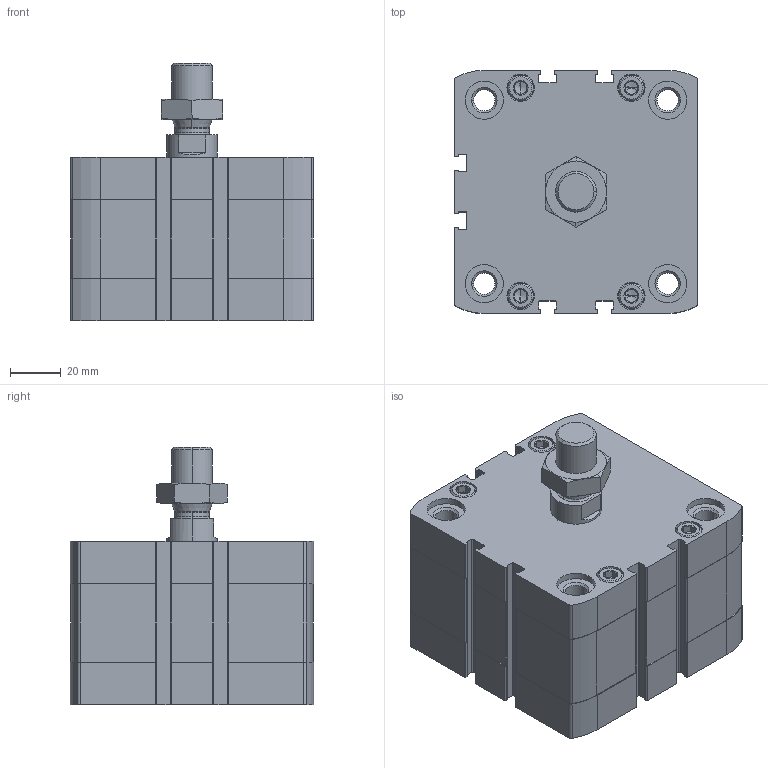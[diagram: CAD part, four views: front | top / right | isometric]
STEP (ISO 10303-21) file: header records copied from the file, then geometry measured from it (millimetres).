
FILE_DESCRIPTION (( 'STEP AP203' ), '1' );
FILE_NAME ('CCN80-10M.STEP', '2017-04-05T20:07:20', ( '' ), ( '' ), 'SwSTEP 2.0', 'SolidWorks 2016', '' );
FILE_SCHEMA (( 'CONFIG_CONTROL_DESIGN' ));
Length unit declared in the file: millimetre
Products named in the file (4): CCN-10---(Z); CCN-10_(KS); _DIN-439-B - M16x1.5(F); CCN80-10M
Assembly tree (3 placements, depth 2):
  CCN80-10M
    CCN-10---(Z)
    CCN-10_(KS)
    _DIN-439-B - M16x1.5(F)
Bounding box: 95.5 x 95.5 x 100.9 mm (x, y, z)
Volume: 508390.6 mm3; surface area: 95798.3 mm2
Topology: 3 solids, 3 shells, 507 faces, 1294 edges, 824 vertices
Faces by surface type: plane 235, cylinder 188, cone 80, bspline 4
Entity records: 16246 total; most frequent: CARTESIAN_POINT 3327, DIRECTION 2736, ORIENTED_EDGE 2556, EDGE_CURVE 1278, AXIS2_PLACEMENT_3D 1029, VERTEX_POINT 824, VECTOR 678, LINE 678
